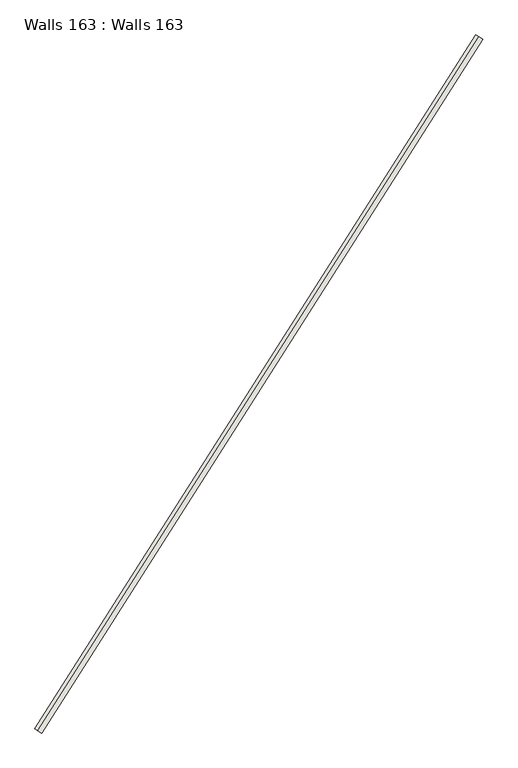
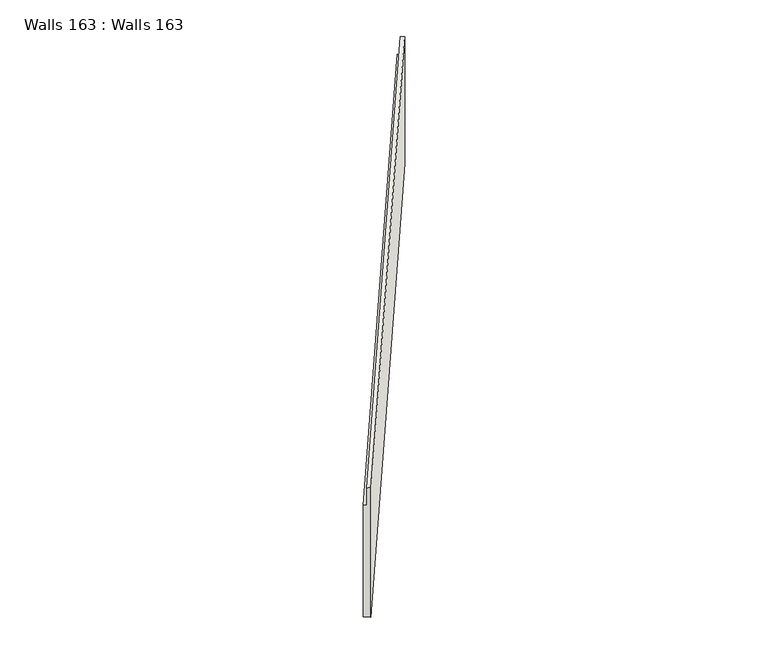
"""IFC4 building model written with IfcOpenShell, lengths in millimetres: wall geometry, Walls 163 : Walls 163."""

from ifc_helpers import new_model, si_unit, origin, place, context, project, spatial, faceted_brep, source, transform, mapped, element, save


def walls_163_walls_163_d869fc45(model_context):
    return source(origin(), model_context, "Body", "Brep", [
        faceted_brep([(180438.214964, 107992.989828, 641610.2345488), (180733.4882882, 107805.0899157, 641610.2345488), (180733.4882882, 107805.0899157, 648900.2345488), (180564.7600722, 107912.4616774, 648900.2345488), (180564.7600722, 107912.4616774, 647900.2345488), (180438.214964, 107992.989828, 647900.2345488), (199765.6379499, 138364.8636694, 642010.3478683), (199765.6379499, 138364.8636694, 648160.0467053), (199892.1830581, 138284.3355187, 648160.0467053), (199892.1830581, 138284.3355187, 649160.0467053), (200060.9112741, 138176.963757, 649160.0467053), (200060.9112741, 138176.963757, 642010.3478683)], [[[0, 1, 2, 3, 4, 5]], [[6, 7, 8, 9, 10, 11]], [[6, 11, 1, 0]], [[11, 10, 2, 1]], [[10, 9, 3, 2]], [[9, 8, 4, 3]], [[8, 7, 5, 4]], [[7, 6, 0, 5]]]),
    ])


if __name__ == "__main__":
    model = new_model("IFC4")
    model_context = context("Model", 3, world=origin())
    ifc_project = project(units=[si_unit("LENGTHUNIT", "METRE", prefix="MILLI")], contexts=[model_context])
    site = spatial("IfcSite", under=ifc_project)
    building = spatial("IfcBuilding", under=site)
    placement = place(None, origin())
    walls_163_walls_163_shape = walls_163_walls_163_d869fc45(model_context)
    element("IfcWall", 1, ObjectType="Walls 163 : Walls 163", at=placement, inside=building, context=model_context, shape_type="MappedRepresentation", body=[
        mapped(walls_163_walls_163_shape, transform((0.0, 0.0, 0.0), x_axis=(1.0, 0.0, 0.0), y_axis=(0.0, 1.0, 0.0), z_axis=(0.0, 0.0, 1.0))),
    ])
    save(model, "model.ifc")
